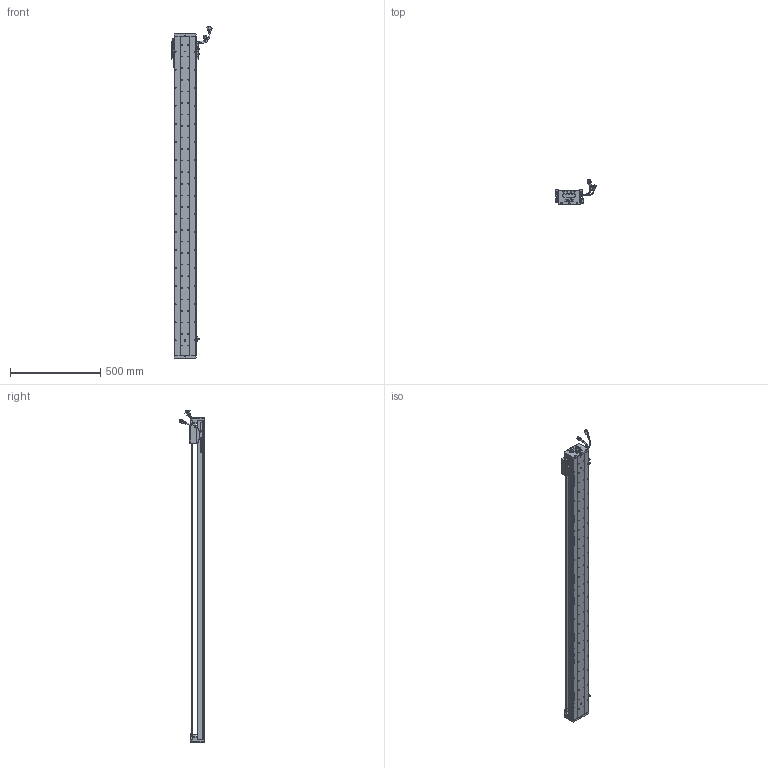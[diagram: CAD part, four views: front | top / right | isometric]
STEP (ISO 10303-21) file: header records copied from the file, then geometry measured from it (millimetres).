
FILE_DESCRIPTION (( 'STEP AP203' ), '1' );
FILE_NAME ('Z1-RY120D-1-L500-B-K.SLDASM_1600.step', '2021-05-17T03:48:07', ( '盈信电脑' ), ( '东莞市道滘镇水果街19号' ), 'SwSTEP 2.0', 'SolidWorks 2016', '' );
FILE_SCHEMA (( 'CONFIG_CONTROL_DESIGN' ));
Length unit declared in the file: millimetre
Products named in the file (37): Z1-RY120铝滑块（21款）; SCALE-Part-2; COVER-Part-1; Z1-RY120D-1-L500-B-K.SLDASM_1600; PSLH080_PSLF2; 672嫖萇羲壽假蚾釱; HARNESS-Part-2; SCREW-M1.7-1; LABEL-Part-1; SCREW-M1.6-2; SCREW-M1.6; 榋妏寠巭燃_暯_M2_2; LABEL; HARNESS-Part-1; 080黍杅芛假蚾釱21遴; Z-RY120D詩湍狟揤裔; 140蚥薯蝶輸; COVER; SEAL; RY100FB-遵嫖萇覜茼え; HOLDER0; Z1-RY120-L500詩湍100mm遵_1600; 覜茼ん672; SHIELDPLATE; Z1-RY120-500-倰第菁釱_1600; SCREW-M1.6-1; SCALE-Part-1; Z-RY120D詩湍奻揤裔; SCREW-M1.7; Z-120詩湍傷裔啣; PBU_SHEET; SCALE; 140雄赽晤鎢ん堤盄; HARNESS; SCREW-M1.6-3; 120-Z-臏賑輸盄裔(21遴); SEAL-Part-1
Assembly tree (43 placements, depth 4):
  Z1-RY120D-1-L500-B-K.SLDASM_1600
    Z1-RY120-500-倰第菁釱_1600
    覜茼ん672  x3
    672嫖萇羲壽假蚾釱  x2
    Z1-RY120铝滑块（21款）
    PSLH080_PSLF2
      SCALE
        SCALE-Part-1
        SCALE-Part-2
      HARNESS
        HARNESS-Part-1
        HARNESS-Part-2
      LABEL
        LABEL-Part-1
      COVER
        COVER-Part-1
      SEAL
        SEAL-Part-1
      榋妏寠巭燃_暯_M2_2
      SHIELDPLATE
      SCREW-M1.7
      SCREW-M1.7-1
      PBU_SHEET
      SCREW-M1.6
      SCREW-M1.6-1
      SCREW-M1.6-2
      SCREW-M1.6-3
      HOLDER0
    080黍杅芛假蚾釱21遴
    120-Z-臏賑輸盄裔(21遴)
    140雄赽晤鎢ん堤盄
    140蚥薯蝶輸  x2
    RY100FB-遵嫖萇覜茼え
    Z-120詩湍傷裔啣  x2
    Z-RY120D詩湍奻揤裔  x2
    Z-RY120D詩湍狟揤裔  x2
    Z1-RY120-L500詩湍100mm遵_1600
Bounding box: 222.86 x 140.94 x 1838.99 mm (x, y, z)
Volume: 4261791 mm3; surface area: 1518200.6 mm2
Topology: 38 solids, 38 shells, 3125 faces, 8700 edges, 5494 vertices
Faces by surface type: cylinder 1522, plane 1167, cone 314, torus 69, bspline 53
Entity records: 99667 total; most frequent: CARTESIAN_POINT 28940, ORIENTED_EDGE 14296, DIRECTION 13460, EDGE_CURVE 7148, AXIS2_PLACEMENT_3D 4932, VERTEX_POINT 4614, VECTOR 3596, LINE 3596
